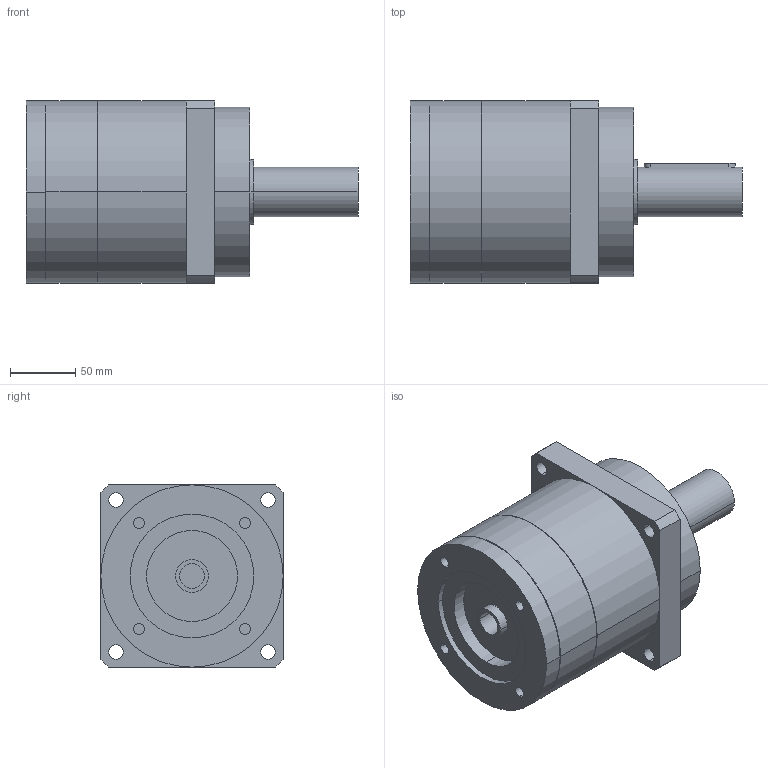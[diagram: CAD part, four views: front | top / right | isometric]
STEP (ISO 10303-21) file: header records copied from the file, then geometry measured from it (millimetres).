
FILE_DESCRIPTION(('CoCreate Modeling STEP Export'),'2;1');
FILE_NAME('GPR150_ig-3-4-5-7_38_B5_19_P03.stp','2014-08-19T16:42:06',(''),(''),'CoCreate Modeling STEP processor for AP214 (Solid Model)','CoCreate Modeling 16.00C 25-Feb-2009 (C) Parametric Technology GmbH','');
FILE_SCHEMA(('AUTOMOTIVE_DESIGN { 1 0 10303 214 1 1 1 1 }'));
Length unit declared in the file: millimetre
Products named in the file (2): GPR150_ig-3-4-5-7_38_B5_19_P03
Assembly tree (1 placements, depth 2):
  GPR150_ig-3-4-5-7_38_B5_19_P03
    GPR150_ig-3-4-5-7_38_B5_19_P03
Bounding box: 255 x 140 x 140 mm (x, y, z)
Volume: 2684705.8 mm3; surface area: 139291.9 mm2
Topology: 1 solids, 1 shells, 88 faces, 224 edges, 154 vertices
Faces by surface type: cylinder 52, plane 30, cone 6
Entity records: 2332 total; most frequent: ORIENTED_EDGE 444, CARTESIAN_POINT 427, DIRECTION 322, EDGE_CURVE 222, VERTEX_POINT 154, AXIS2_PLACEMENT_3D 121, EDGE_LOOP 114, FACE_OUTER_BOUND 88
